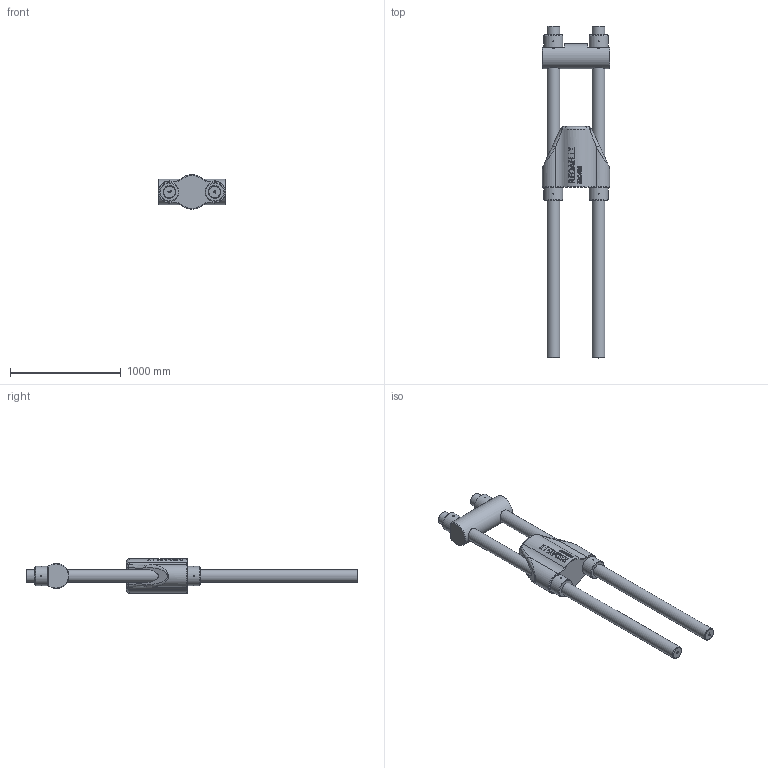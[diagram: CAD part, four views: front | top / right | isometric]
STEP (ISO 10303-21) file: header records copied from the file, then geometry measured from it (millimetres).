
FILE_DESCRIPTION(/* description */ (''),/* implementation_level */ '2;1');
FILE_NAME(/* name */ 'D:\Clienti\Redaelli (inventor)\BRC\STEP\Arrangemet\BRC100 72 111 0.stp',/* time_stamp */ '2021-05-08T08:39:18+02:00',/* author */ ('fabri'),/* organization */ (''),/* preprocessor_version */ 'ST-DEVELOPER v16.13',/* originating_system */ 'Autodesk Inventor 2018',/* authorisation */ '');
FILE_SCHEMA (('AUTOMOTIVE_DESIGN { 1 0 10303 214 3 1 1 }'));
Length unit declared in the file: millimetre
Products named in the file (5): BRC020 72 111 0; BRC020 71 112 0; BRC020 71 114 0_ROD; BRC020 71 113 0; BRC020 71 114 0_NUT
Assembly tree (8 placements, depth 2):
  BRC020 72 111 0
    BRC020 71 112 0
    BRC020 71 114 0_ROD  x2
    BRC020 71 113 0
    BRC020 71 114 0_NUT  x4
Bounding box: 608 x 3000 x 310 mm (x, y, z)
Volume: 140283606.4 mm3; surface area: 4465774.7 mm2
Topology: 8 solids, 8 shells, 1444 faces, 3854 edges, 2558 vertices
Faces by surface type: plane 701, bspline 619, cylinder 70, cone 30, torus 20, sphere 4
Full cylindrical faces by diameter (mm): 10 x16, 108.505 x4, 115 x2, 120 x4, 172.5 x4, 228 x1
Entity records: 28804 total; most frequent: CARTESIAN_POINT 10996, ORIENTED_EDGE 4202, DIRECTION 2541, EDGE_CURVE 2101, VERTEX_POINT 1400, LINE 1175, VECTOR 1175, EDGE_LOOP 909
